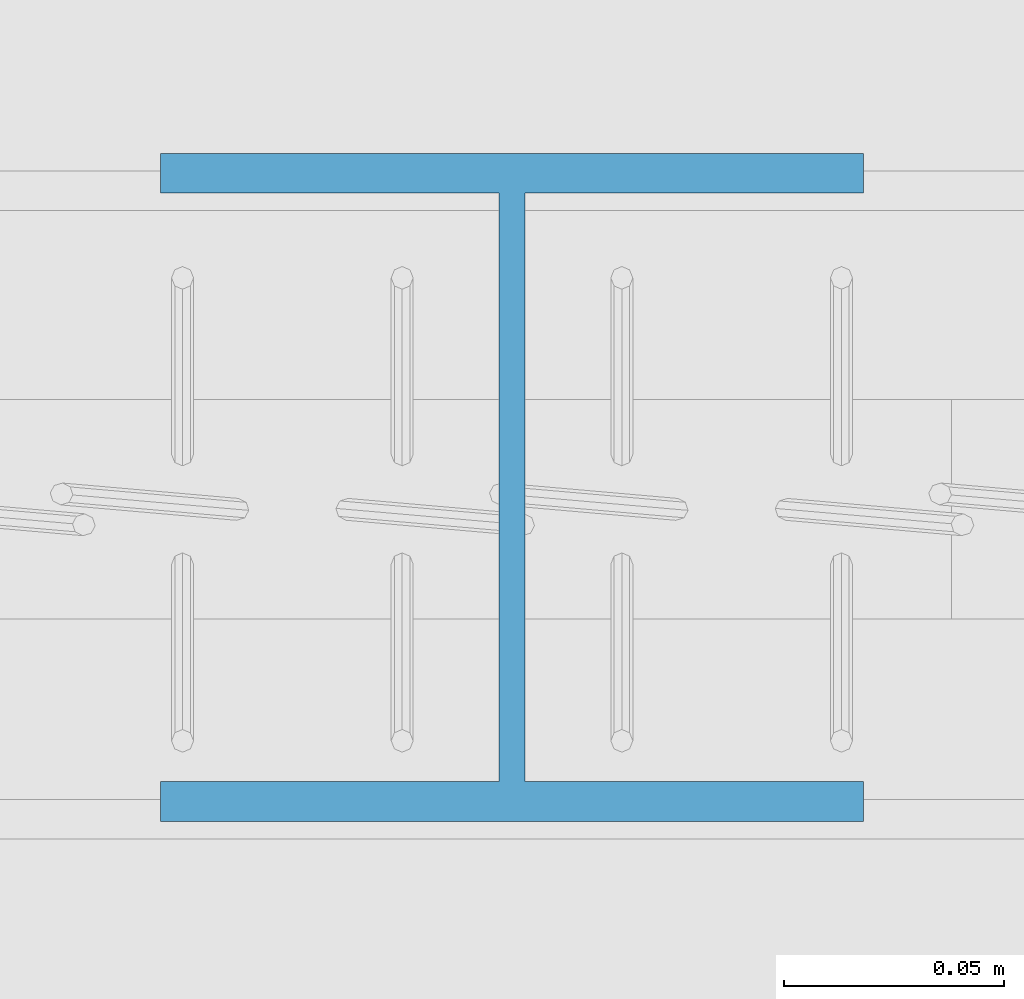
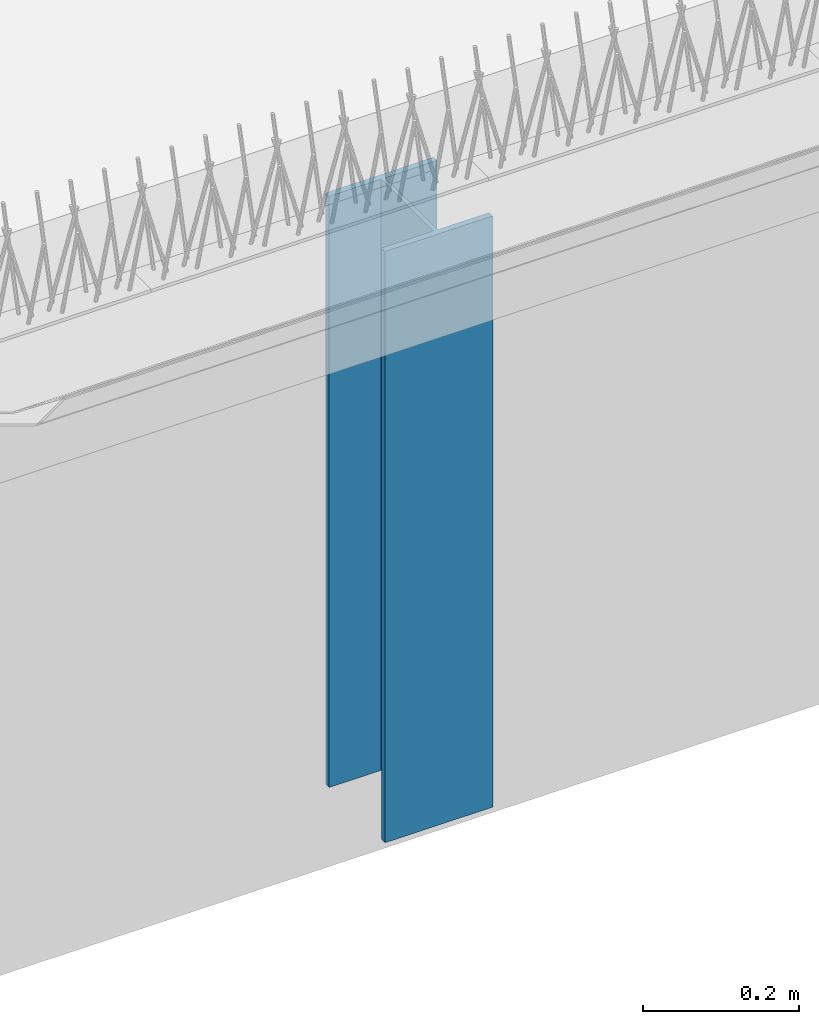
# One storey, part 21 of 81: 1 column.
"""IFC2X3 building model written with IfcOpenShell, lengths in millimetres."""

from ifc_helpers import new_model, entity, si_unit, converted_unit, derived_unit, money_unit, direction, frame, origin_with_axes, place, context, subcontext, project, spatial, faceted_brep, material, type_object, element, save


model = new_model("IFC2X3")

# Units and contexts
model_context = context("Model", 3, precision=0.01, world=origin_with_axes(), true_north=direction((0.0, 1.0)))
body_context = subcontext(model_context, "Body", "Model", "MODEL_VIEW")
ifc_project = project(units=[si_unit("LENGTHUNIT", "METRE", prefix="MILLI"), si_unit("AREAUNIT", "SQUARE_METRE"), si_unit("VOLUMEUNIT", "CUBIC_METRE"), converted_unit("PLANEANGLEUNIT", "DEGREE", entity("IfcPlaneAngleMeasure", 0.0174532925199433), si_unit("PLANEANGLEUNIT", "RADIAN"), dimensions=[0, 0, 0, 0, 0, 0, 0]), money_unit("EUR"), converted_unit("TIMEUNIT", "Year", entity("IfcTimeMeasure", 31557600.0), si_unit("TIMEUNIT", "SECOND"), dimensions=[0, 0, 1, 0, 0, 0, 0]), si_unit("MASSUNIT", "GRAM", prefix="KILO"), si_unit("THERMODYNAMICTEMPERATUREUNIT", "DEGREE_CELSIUS"), si_unit("LUMINOUSINTENSITYUNIT", "LUMEN"), si_unit("ENERGYUNIT", "JOULE", prefix="MEGA"), derived_unit("THERMALCONDUCTANCEUNIT", [(si_unit("POWERUNIT", "WATT"), 1), (si_unit("LENGTHUNIT", "METRE"), -1), (si_unit("THERMODYNAMICTEMPERATUREUNIT", "KELVIN"), -1)]), derived_unit("SPECIFICHEATCAPACITYUNIT", [(si_unit("ENERGYUNIT", "JOULE"), 1), (si_unit("MASSUNIT", "GRAM", prefix="KILO"), -1), (si_unit("THERMODYNAMICTEMPERATUREUNIT", "KELVIN"), -1)]), derived_unit("MASSDENSITYUNIT", [(si_unit("MASSUNIT", "GRAM", prefix="KILO"), 1), (si_unit("VOLUMEUNIT", "CUBIC_METRE"), -1)])], contexts=[model_context])

# Site, building, storey
site_placement = place(None, origin_with_axes())
site = spatial("IfcSite", under=ifc_project, at=site_placement, Name="Site", CompositionType="ELEMENT")
building_placement = place(site_placement, origin_with_axes())
building = spatial("IfcBuilding", under=site, at=building_placement, Name="Naam gebouw", CompositionType="ELEMENT")
storey_placement = place(building_placement, frame((0.0, 0.0, 15320.0), z_axis=(0.0, 0.0, 1.0), x_axis=(1.0, 0.0, 0.0)))
storey = spatial("IfcBuildingStorey", under=building, at=storey_placement, Name="01 dak", CompositionType="ELEMENT", Elevation=15320.0)

# Column
ifc_material = material(Name="Metaal - Staal C")
column_type = type_object("IfcColumnType", Name="HEA160 160 x 152", PredefinedType="COLUMN")
column_placement = place(storey_placement, frame((61299.99999999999, 30080.0, -272.1363728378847), z_axis=(0.0, 0.0, 1.0), x_axis=(-1.0, 0.0, 0.0)))
element("IfcColumn", 1, at=column_placement, inside=storey, type_object=column_type, material=ifc_material, Name="HEA160", ObjectType="COLUMN", context=body_context, shape_type="Brep", body=[
    faceted_brep([(-79.9999999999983, 76.00000000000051, 927.0970131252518), (-79.9999999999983, 76.00000000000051, 0.0), (-79.9999999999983, 67.00000000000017, 0.0), (-79.9999999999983, 67.00000000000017, 927.0970131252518), (79.9999999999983, 76.00000000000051, 927.0970131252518), (79.9999999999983, 76.00000000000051, 0.0), (79.9999999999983, 67.00000000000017, 0.0), (3.000000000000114, 67.00000000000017, 0.0), (3.000000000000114, -67.00000000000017, 0.0), (79.9999999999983, -67.00000000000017, 0.0), (79.9999999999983, -76.00000000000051, 0.0), (-79.9999999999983, -76.00000000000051, 0.0), (-79.9999999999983, -67.00000000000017, 0.0), (-3.000000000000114, -67.00000000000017, 0.0), (-3.000000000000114, 67.00000000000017, 0.0), (-3.000000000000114, 67.00000000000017, 927.0970131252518), (-3.000000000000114, -67.00000000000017, 927.0970131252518), (-79.9999999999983, -67.00000000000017, 927.0970131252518), (-79.9999999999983, -76.00000000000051, 927.0970131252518), (79.9999999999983, -76.00000000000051, 927.0970131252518), (79.9999999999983, -67.00000000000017, 927.0970131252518), (3.000000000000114, -67.00000000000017, 927.0970131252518), (3.000000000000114, 67.00000000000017, 927.0970131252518), (79.9999999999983, 67.00000000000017, 927.0970131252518)], [[[0, 1, 2, 3]], [[4, 5, 1, 0]], [[2, 1, 5, 6, 7, 8, 9, 10, 11, 12, 13, 14]], [[3, 2, 14, 15]], [[4, 0, 3, 15, 16, 17, 18, 19, 20, 21, 22, 23]], [[23, 6, 5, 4]], [[22, 7, 6, 23]], [[21, 8, 7, 22]], [[20, 9, 8, 21]], [[19, 10, 9, 20]], [[18, 11, 10, 19]], [[17, 12, 11, 18]], [[16, 13, 12, 17]], [[15, 14, 13, 16]]]),
])

save(model, "model.ifc")
